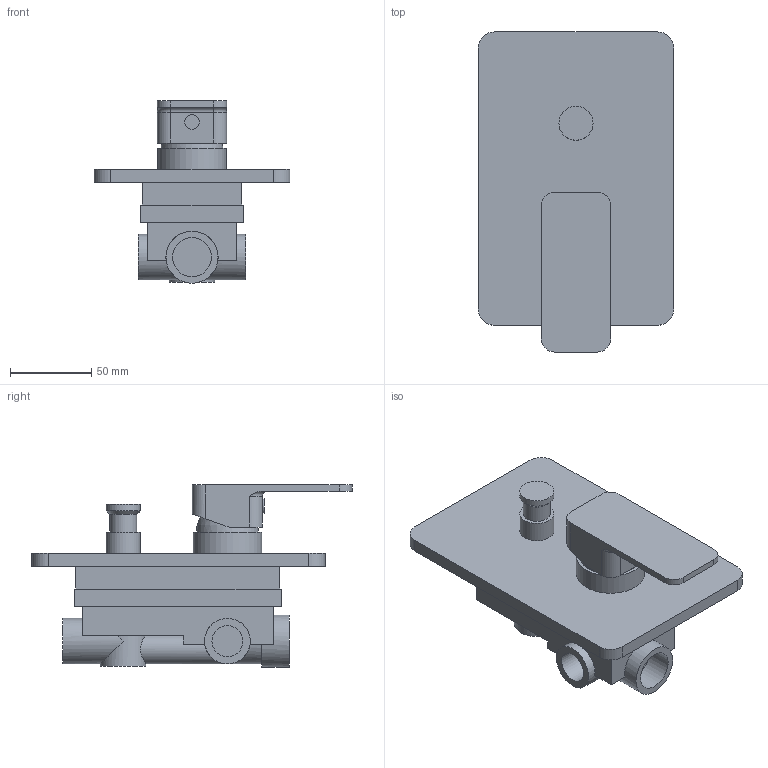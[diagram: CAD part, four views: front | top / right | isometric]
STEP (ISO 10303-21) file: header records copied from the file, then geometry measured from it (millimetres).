
FILE_DESCRIPTION(/* description */ ('LOFT bateria wannowo-natryskowa podtynkowa'),/* implementation_level */ '2;1');
FILE_NAME(/* name */ 'C:\Nextcloud\02_biblioteki_cad\Valvex\Projekt\PROJECTS\Eksport\ETAP 1\2454980\2454980.stp',/* time_stamp */ '2021-06-17T15:39:53+02:00',/* author */ ('Cadventure'),/* organization */ (''),/* preprocessor_version */ 'ST-DEVELOPER v18.1',/* originating_system */ 'Autodesk Inventor 2020',/* authorisation */ '');
FILE_SCHEMA (('AUTOMOTIVE_DESIGN { 1 0 10303 214 3 1 1 }'));
Length unit declared in the file: millimetre
Products named in the file (1): 2454980
Bounding box: 120 x 196.5 x 112 mm (x, y, z)
Volume: 631707.9 mm3; surface area: 110907.9 mm2
Topology: 3 solids, 3 shells, 86 faces, 228 edges, 158 vertices
Faces by surface type: plane 52, cylinder 30, torus 2, cone 1, sphere 1
Full cylindrical faces by diameter (mm): 6 x2, 9 x1, 16.5 x1, 19 x3, 21 x2, 24 x1, 28 x4, 32 x1, 42 x1
Entity records: 2904 total; most frequent: CARTESIAN_POINT 546, DIRECTION 492, ORIENTED_EDGE 454, EDGE_CURVE 227, AXIS2_PLACEMENT_3D 183, VERTEX_POINT 158, LINE 126, VECTOR 126
